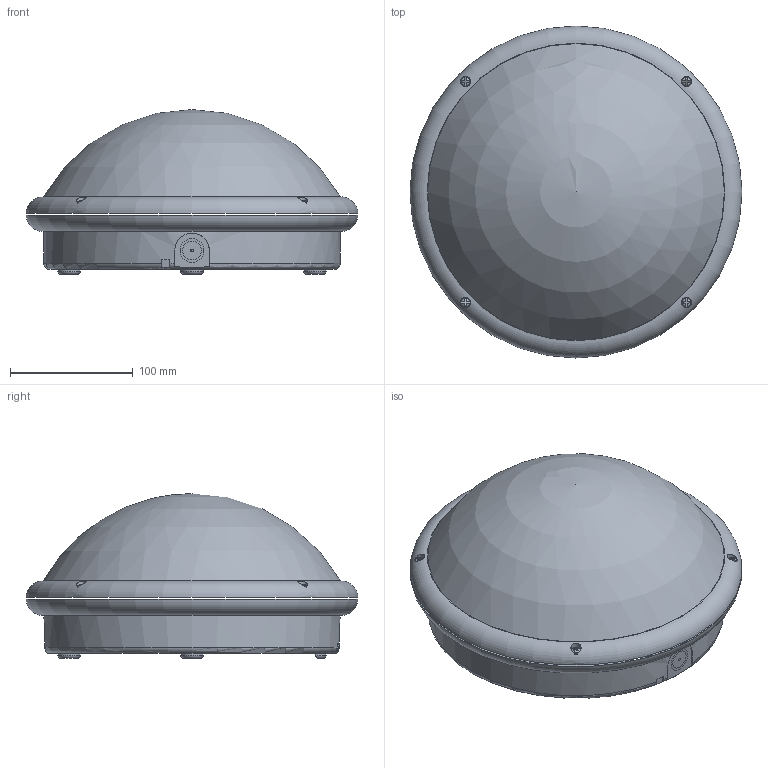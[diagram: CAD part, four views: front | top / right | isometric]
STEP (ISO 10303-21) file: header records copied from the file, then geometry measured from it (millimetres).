
FILE_DESCRIPTION(/* description */ (''),/* implementation_level */ '2;1');
FILE_NAME(/* name */ '4008980.stp',/* time_stamp */ '2017-07-12T08:13:18+02:00',/* author */ (''),/* organization */ (''),/* preprocessor_version */ 'ST-DEVELOPER v16',/* originating_system */ 'SIEMENS PLM Software NX 11.0',/* authorisation */ '');
FILE_SCHEMA (('AUTOMOTIVE_DESIGN { 1 0 10303 214 3 1 1 1 }'));
Length unit declared in the file: millimetre
Products named in the file (1): 4008980_LINKEDEXT_jt
Bounding box: 269.96 x 269.96 x 134 mm (x, y, z)
Surface area: 167635.1 mm2 (no closed solid volume)
Topology: 0 solids, 30 shells, 104 faces, 492 edges, 416 vertices
Faces by surface type: plane 32, cylinder 24, bspline 19, torus 15, sphere 9, cone 5
Full cylindrical faces by diameter (mm): 8.2 x4, 18.2 x3, 241 x1
Entity records: 7059 total; most frequent: CARTESIAN_POINT 3012, DIRECTION 721, ORIENTED_EDGE 565, EDGE_CURVE 462, VERTEX_POINT 408, AXIS2_PLACEMENT_3D 287, CIRCLE 193, LINE 147
